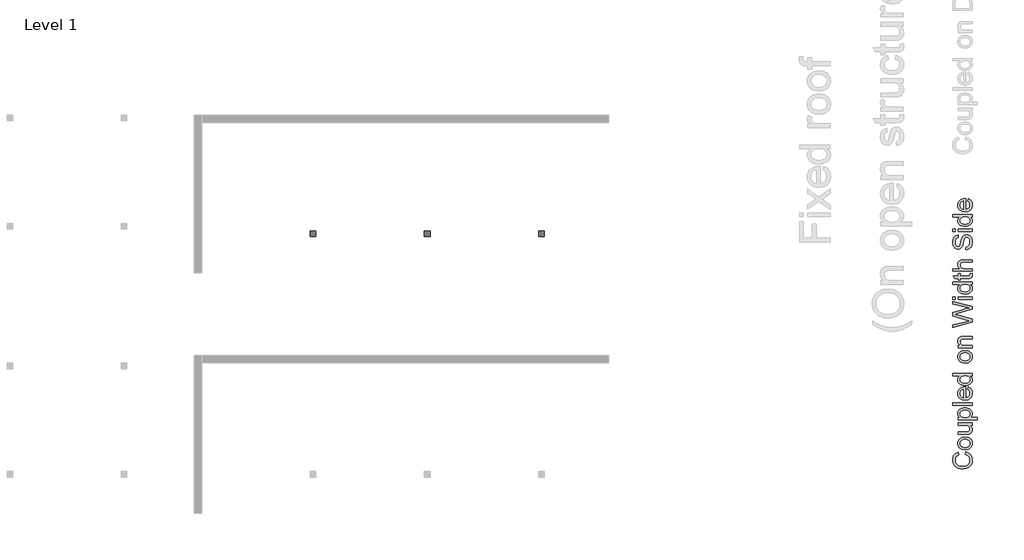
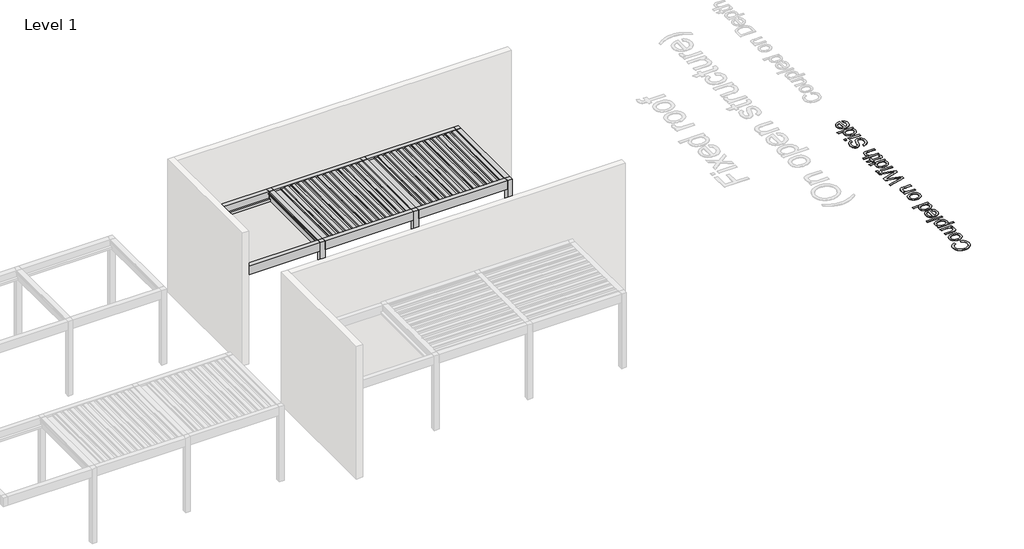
# One storey, part 66 of 80: 2 proxies.
"""IFC4 building model written with IfcOpenShell, lengths in millimetres."""

from ifc_helpers import new_model, si_unit, origin, origin_with_axes, place, context, project, spatial, polyline, outline, extrude, transform, mapped, element, save
from components import generic_models_989edc24

model = new_model("IFC4")

# Units and contexts
model_context = context("Model", 3, world=origin())
ifc_project = project(units=[si_unit("LENGTHUNIT", "METRE", prefix="MILLI")], contexts=[model_context])

# Site, building, storey
site = spatial("IfcSite", under=ifc_project)
building = spatial("IfcBuilding", under=site)
storey = spatial("IfcBuildingStorey", under=building, Name="Level 1", Elevation=0.0)

# Proxies
placement = place(None, origin())
generic_models_shape = generic_models_989edc24(model_context)
element("IfcBuildingElementProxy", 1, Name="Renson_Amani_Patio_Cover : Renson_Amani_Patio_Cover", ObjectType="Renson_Amani_Patio_Cover : Renson_Amani_Patio_Cover", at=placement, inside=storey, context=model_context, shape_type="MappedRepresentation", body=[
    mapped(generic_models_shape, transform((201674.0111744, 51309.4960358, 0.0), x_axis=(1.0, 0.0, 0.0), y_axis=(0.0, 1.0, 0.0), z_axis=(0.0, 0.0, 1.0))),
])
element("IfcBuildingElementProxy", 2, Name="500mm Arial", ObjectType="500mm Arial", at=placement, inside=storey, context=model_context, shape_type="SweptSolid", body=[
    extrude(outline(polyline([(220234.4472638, 44082.6564057), (220250.6340716, 44145.4415995), (220289.6793805, 44133.017918), (220323.7966034, 44116.4708924), (220352.9857405, 44095.8005228), (220377.2467916, 44071.0068092), (220396.3191738, 44042.6492387), (220409.942304, 44011.2872986), (220418.116182, 43976.9209889), (220420.8408081, 43939.5503096), (220418.779136, 43901.2637573), (220412.59412, 43866.7250029), (220402.2857599, 43835.9340464), (220387.8540558, 43808.8908876), (220369.5136055, 43785.2238126), (220347.4790069, 43764.5611072), (220321.7502598, 43746.9027714), (220292.3273644, 43732.2488053), (220260.4825792, 43720.7409966), (220227.4881628, 43712.5211333), (220193.3441151, 43707.5892153), (220158.0504362, 43705.9452426), (220120.1815833, 43707.8038131), (220084.8112623, 43713.3795246), (220051.9394732, 43722.6723771), (220021.566216, 43735.6823706), (219994.1934963, 43752.1182651), (219970.3233197, 43771.6888208), (219949.9556863, 43794.3940377), (219933.0905961, 43820.2339158), (219919.8660048, 43848.3309032), (219910.4198682, 43877.807448), (219904.7521862, 43908.6635504), (219902.8629589, 43940.8992102), (219905.3078413, 43976.8098579), (219912.6424886, 44009.7391286), (219924.8669007, 44039.6870222), (219941.9810777, 44066.6535389), (219963.5328312, 44090.1941545), (219989.0699731, 44109.8643449), (220018.5925032, 44125.6641102), (220052.1004216, 44137.5934503), (220067.060956, 44074.8082565), (220042.3707092, 44064.9214278), (220021.2749761, 44053.0419051), (220003.7737566, 44039.1696882), (219989.8670507, 44023.3047771), (219979.2712828, 44005.3552014), (219971.7028772, 43985.2289906), (219967.1618338, 43962.9261447), (219965.6481527, 43938.4466636), (219967.3266143, 43910.2806983), (219972.3619991, 43884.5212944), (219980.7543071, 43861.168452), (219992.5035383, 43840.2221709), (220007.0808624, 43821.9468663), (220023.9574489, 43806.6069536), (220043.1332979, 43794.2024325), (220064.6084094, 43784.7333033), (220110.563002, 43772.7311532), (220157.9278088, 43768.7304365), (220215.9305368, 43773.4669172), (220266.0851154, 43787.6763592), (220287.7403358, 43798.4675644), (220306.4754928, 43811.8952572), (220322.2905865, 43827.9594377), (220335.1856169, 43846.6601058), (220352.3381149, 43888.3380701), (220358.0556142, 43933.2963156), (220356.1089053, 43960.5923933), (220350.2687787, 43985.7041715), (220340.5352342, 44008.6316505), (220326.908272, 44029.3748301), (220309.4492056, 44047.443201), (220288.2193488, 44062.3462539), (220263.2187015, 44074.0839888), (220234.4472638, 44082.6564057)])), origin_with_axes(), (0.0, 0.0, 1.0), 5.0),
    extrude(outline(polyline([(220228.5611519, 44208.2267934), (220180.790142, 44211.6220376), (220139.6256796, 44221.8077704), (220105.0677647, 44238.7839916), (220077.1163972, 44262.5507013), (220059.2511278, 44286.4783594), (220046.4902211, 44312.889221), (220038.8336771, 44341.783286), (220036.2814958, 44373.1605545), (220039.3893322, 44407.7989437), (220048.7128415, 44439.1187306), (220064.2520237, 44467.1199154), (220086.0068788, 44491.802498), (220113.2416427, 44511.9478693), (220145.2205516, 44526.3374203), (220181.9436053, 44534.9711509), (220223.410804, 44537.8490611), (220286.8397913, 44532.7600268), (220312.8751067, 44526.398734), (220335.1243032, 44517.492924), (220354.3423053, 44506.1537279), (220371.2840376, 44492.4922767), (220385.9495001, 44476.5085705), (220398.3386927, 44458.2026091), (220415.2152792, 44417.4750065), (220420.8408081, 44373.1605545), (220417.7444679, 44338.0163277), (220408.4554476, 44306.4053008), (220392.9737469, 44278.327474), (220371.299366, 44253.7828471), (220343.8001869, 44233.8520736), (220310.8440915, 44219.6158068), (220272.4310798, 44211.0740467), (220228.5611519, 44208.2267934)]), holes=[polyline([(220228.4385246, 44271.0119872), (220258.892256, 44272.8284046), (220285.2609644, 44278.2776566), (220307.5446499, 44287.3597434), (220325.7433123, 44300.0746648), (220339.8799444, 44315.541037), (220349.9775387, 44332.8774761), (220356.0360954, 44352.0839819), (220358.0556142, 44373.1605545), (220356.024599, 44394.1298283), (220349.9315535, 44413.259692), (220339.7764776, 44430.5501458), (220325.5593713, 44446.0011896), (220307.1806, 44458.716111), (220284.5405289, 44467.7981978), (220257.639158, 44473.2474499), (220226.4764873, 44475.0638672), (220196.9884461, 44473.2359535), (220171.3095164, 44467.7522126), (220149.4396982, 44458.6126442), (220131.3789915, 44445.8172486), (220117.2423594, 44430.3087232), (220107.1447651, 44413.0297658), (220101.0862085, 44393.9803762), (220099.0666896, 44373.1605545), (220101.0785443, 44352.0839819), (220107.1141083, 44332.8774761), (220117.1733816, 44315.541037), (220131.2563642, 44300.0746648), (220149.4013772, 44287.3597434), (220171.6467416, 44278.2776566), (220197.9924574, 44272.8284046), (220228.4385246, 44271.0119872)])]), origin_with_axes(), (0.0, 0.0, 1.0), 5.0),
    extrude(outline(polyline([(220412.9926588, 44843.926881), (220349.5943283, 44843.926881), (220380.7646632, 44821.2101678), (220403.0291881, 44794.753321), (220416.3879031, 44764.5563406), (220420.8408081, 44730.6192265), (220417.7138111, 44700.0390357), (220408.3328202, 44671.5741663), (220394.2306771, 44647.6924934), (220376.9402233, 44630.8618922), (220355.9402927, 44619.5341924), (220330.7097192, 44612.1612241), (220272.3391093, 44608.4824041), (220044.129645, 44608.4824041), (220044.129645, 44671.267598), (220242.7859224, 44671.267598), (220306.7973896, 44675.0690453), (220328.1498737, 44684.2201099), (220344.3826667, 44699.9010799), (220354.6373773, 44721.0696231), (220358.0556142, 44746.683407), (220354.5607353, 44773.7687189), (220344.0760984, 44799.1065913), (220327.5673939, 44819.9992229), (220306.0003119, 44833.7488125), (220276.4624534, 44841.3823639), (220236.0414192, 44843.926881), (220044.129645, 44843.926881), (220044.129645, 44906.7120749), (220412.9926588, 44906.7120749), (220412.9926588, 44843.926881)])), origin_with_axes(), (0.0, 0.0, 1.0), 5.0),
    extrude(outline(polyline([(220554.259345, 44993.0417164), (220044.129645, 44993.0417164), (220044.129645, 45055.8269103), (220105.6885655, 45055.8269103), (220075.3229725, 45076.3056747), (220053.6332632, 45099.2369857), (220040.6194376, 45125.969744), (220036.2814958, 45157.8528503), (220037.799009, 45179.7494932), (220042.3515487, 45200.3125639), (220049.9391148, 45219.5420623), (220060.5617075, 45237.4379885), (220073.943415, 45253.6094679), (220089.8083261, 45267.6656258), (220128.9877586, 45289.4319772), (220175.2489195, 45302.5837585), (220225.7407233, 45306.9676856), (220279.4361662, 45302.0166071), (220327.460095, 45287.1633716), (220348.735937, 45276.1422401), (220367.3752914, 45262.8831599), (220383.3781582, 45247.3861308), (220396.7445374, 45229.651153), (220414.8167404, 45190.9469014), (220420.8408081, 45150.2499557), (220416.8094345, 45121.3865475), (220404.7153139, 45095.6194794), (220386.4591699, 45073.5618881), (220363.9417261, 45055.8269103), (220554.259345, 45055.8269103), (220554.259345, 44993.0417164)]), holes=[polyline([(220231.5042079, 45055.8269103), (220261.762502, 45057.5245324), (220287.7901531, 45062.6173988), (220309.5871614, 45071.1055094), (220327.1535266, 45082.9888642), (220340.6731899, 45097.2941089), (220350.3300923, 45113.0478889), (220356.1242337, 45130.2502043), (220358.0556142, 45148.901055), (220356.0552559, 45167.8201531), (220350.0541808, 45185.336701), (220340.0523891, 45201.4506988), (220326.0498806, 45216.1621465), (220307.8473861, 45228.4210476), (220285.245636, 45237.1774055), (220258.2446304, 45242.4312202), (220226.8443693, 45244.1824918), (220196.8466583, 45242.4733734), (220170.8649923, 45237.346018), (220148.8993715, 45228.8004259), (220130.9497959, 45216.8365968), (220117.0009369, 45202.4968632), (220107.0374662, 45186.8235574), (220101.0593838, 45169.8166793), (220099.0666896, 45151.476229), (220101.1858432, 45133.1932603), (220107.5433039, 45115.9909449), (220118.1390718, 45099.8692829), (220132.9731468, 45084.8282742), (220151.8462596, 45072.1401775), (220174.5591407, 45063.0772512), (220201.1117901, 45057.6394955), (220231.5042079, 45055.8269103)])]), origin_with_axes(), (0.0, 0.0, 1.0), 5.0),
    extrude(outline(polyline([(220412.9926588, 45377.6010287), (219910.7111081, 45377.6010287), (219910.7111081, 45440.3862226), (220412.9926588, 45440.3862226), (220412.9926588, 45377.6010287)])), origin_with_axes(), (0.0, 0.0, 1.0), 5.0),
    extrude(outline(polyline([(220303.1185696, 45792.8171739), (220310.9667188, 45854.3760945), (220335.6224767, 45844.937622), (220357.3505071, 45832.1958758), (220376.1508099, 45816.1508559), (220392.0233851, 45796.8025622), (220404.6310077, 45774.3502642), (220413.6364523, 45748.9932313), (220419.0397191, 45720.7314634), (220420.8408081, 45689.5649606), (220417.7329716, 45650.6077902), (220408.4094623, 45615.8965911), (220392.8702801, 45585.4313634), (220371.115425, 45559.212107), (220343.7503696, 45538.1278701), (220311.3805861, 45523.067701), (220274.0060746, 45514.0315995), (220231.6268352, 45511.0195656), (220187.8105567, 45514.0622563), (220149.1906115, 45523.1903283), (220115.7669994, 45538.4037816), (220087.5397204, 45559.7026163), (220065.1142471, 45585.8528948), (220049.0960519, 45615.6206796), (220039.4851348, 45649.0059706), (220036.2814958, 45686.008768), (220039.4774706, 45721.819781), (220049.0653951, 45754.2048929), (220065.0452693, 45783.1641037), (220087.4170931, 45808.6974134), (220115.5830584, 45829.5402277), (220148.9453568, 45844.4279522), (220187.5039884, 45853.3605869), (220231.2589532, 45856.3381318), (220248.181525, 45855.9702498), (220248.181525, 45573.8047595), (220273.2358217, 45577.4414263), (220295.1784499, 45584.6726067), (220314.0094095, 45595.4983009), (220329.7287006, 45609.9185087), (220342.1217253, 45627.1361525), (220350.9738858, 45646.3541546), (220356.2851821, 45667.5725151), (220358.0556142, 45690.7912339), (220354.7753331, 45724.2071818), (220344.9344897, 45752.3501545), (220327.9199474, 45775.2201518), (220303.1185696, 45792.8171739)]), holes=[polyline([(220185.3963312, 45573.8047595), (220185.3963312, 45793.5529379), (220152.2256379, 45785.0609952), (220128.4972492, 45768.4143349), (220115.6213794, 45751.2924937), (220106.4243295, 45731.8100764), (220100.9060996, 45709.9670829), (220099.0666896, 45685.7635133), (220104.9374731, 45643.4417555), (220112.2759525, 45625.0284952), (220122.5498236, 45608.4469807), (220135.2839056, 45594.5326106), (220150.0030175, 45584.1207838), (220166.7071594, 45577.2115), (220185.3963312, 45573.8047595)])]), origin_with_axes(), (0.0, 0.0, 1.0), 5.0),
    extrude(outline(polyline([(220412.9926588, 46146.7196533), (220353.7636576, 46146.7196533), (220383.1099109, 46127.9346789), (220404.0715205, 46105.1796447), (220416.6484862, 46078.4545506), (220420.8408081, 46047.7593966), (220414.7707551, 46007.1697498), (220396.5605964, 45970.0136683), (220367.4825903, 45938.5597577), (220328.8089956, 45915.0766237), (220282.1033106, 45900.4533144), (220228.9290339, 45895.5788779), (220176.4138791, 45900.0701039), (220128.9877586, 45913.543782), (220107.8575365, 45923.6452085), (220089.3484736, 45935.9845837), (220073.4605699, 45950.5619078), (220060.1938255, 45967.3771806), (220042.2595782, 46005.3456682), (220036.2814958, 46047.5141419), (220040.558124, 46078.2322885), (220053.3880085, 46105.3942425), (220073.0543669, 46128.417524), (220097.8404163, 46146.7196533), (219910.7111081, 46146.7196533), (219910.7111081, 46209.5048471), (220412.9926588, 46209.5048471), (220412.9926588, 46146.7196533)]), holes=[polyline([(220228.6837793, 45958.3640718), (220259.1298465, 45960.1345039), (220285.4755623, 45965.4458002), (220307.7209267, 45974.2979607), (220325.8659396, 45986.6909854), (220339.9489223, 46001.4905715), (220350.0081956, 46017.5624162), (220356.0437596, 46034.9065194), (220358.0556142, 46053.5228812), (220356.1357301, 46072.2273814), (220350.3760776, 46089.4680178), (220340.7766568, 46105.2447904), (220327.3374676, 46119.5576993), (220309.9512112, 46131.4410542), (220288.5105887, 46139.9291648), (220263.0156, 46145.0220312), (220233.4662452, 46146.7196533), (220201.069637, 46144.9913743), (220173.2868821, 46139.8065375), (220150.1179807, 46131.1651427), (220131.5629325, 46119.06719), (220117.3458263, 46104.4400486), (220107.1907503, 46088.2110876), (220101.0977048, 46070.3803072), (220099.0666896, 46050.9477072), (220101.0172306, 46031.9634634), (220106.8688536, 46014.6193602), (220116.6215586, 45998.9153975), (220130.2753455, 45984.8515754), (220148.1291186, 45973.2632926), (220170.4817819, 45964.9859477), (220197.3333355, 45960.0195407), (220228.6837793, 45958.3640718)])]), origin_with_axes(), (0.0, 0.0, 1.0), 5.0),
    extrude(outline(polyline([(220228.5611519, 46484.1900702), (220180.790142, 46487.5853144), (220139.6256796, 46497.7710472), (220105.0677647, 46514.7472684), (220077.1163972, 46538.5139782), (220059.2511278, 46562.4416363), (220046.4902211, 46588.8524978), (220038.8336771, 46617.7465629), (220036.2814958, 46649.1238314), (220039.3893322, 46683.7622205), (220048.7128415, 46715.0820074), (220064.2520237, 46743.0831922), (220086.0068788, 46767.7657748), (220113.2416427, 46787.9111462), (220145.2205516, 46802.3006971), (220181.9436053, 46810.9344277), (220223.410804, 46813.8123379), (220286.8397913, 46808.7233036), (220312.8751067, 46802.3620108), (220335.1243032, 46793.4562008), (220354.3423053, 46782.1170047), (220371.2840376, 46768.4555536), (220385.9495001, 46752.4718473), (220398.3386927, 46734.1658859), (220415.2152792, 46693.4382834), (220420.8408081, 46649.1238314), (220417.7444679, 46613.9796045), (220408.4554476, 46582.3685777), (220392.9737469, 46554.2907508), (220371.299366, 46529.7461239), (220343.8001869, 46509.8153504), (220310.8440915, 46495.5790836), (220272.4310798, 46487.0373236), (220228.5611519, 46484.1900702)]), holes=[polyline([(220228.4385246, 46546.975264), (220258.892256, 46548.7916814), (220285.2609644, 46554.2409334), (220307.5446499, 46563.3230202), (220325.7433123, 46576.0379417), (220339.8799444, 46591.5043139), (220349.9775387, 46608.8407529), (220356.0360954, 46628.0472587), (220358.0556142, 46649.1238314), (220356.024599, 46670.0931051), (220349.9315535, 46689.2229688), (220339.7764776, 46706.5134226), (220325.5593713, 46721.9644664), (220307.1806, 46734.6793879), (220284.5405289, 46743.7614746), (220257.639158, 46749.2107267), (220226.4764873, 46751.027144), (220196.9884461, 46749.1992304), (220171.3095164, 46743.7154894), (220149.4396982, 46734.5759211), (220131.3789915, 46721.7805254), (220117.2423594, 46706.2720001), (220107.1447651, 46688.9930426), (220101.0862085, 46669.943653), (220099.0666896, 46649.1238314), (220101.0785443, 46628.0472587), (220107.1141083, 46608.8407529), (220117.1733816, 46591.5043139), (220131.2563642, 46576.0379417), (220149.4013772, 46563.3230202), (220171.6467416, 46554.2409334), (220197.9924574, 46548.7916814), (220228.4385246, 46546.975264)])]), origin_with_axes(), (0.0, 0.0, 1.0), 5.0),
    extrude(outline(polyline([(220412.9926588, 46884.445681), (220044.129645, 46884.445681), (220044.129645, 46947.2308748), (220095.6331243, 46947.2308748), (220069.6667868, 46969.0432114), (220051.1194029, 46995.2394752), (220039.9909726, 47025.819666), (220036.2814958, 47060.783784), (220039.270537, 47091.7318568), (220048.2376606, 47120.0740989), (220062.0638923, 47143.7105171), (220079.6302575, 47160.5411183), (220100.8907712, 47171.9607886), (220125.7994479, 47179.3644138), (220186.4999771, 47182.6753517), (220412.9926588, 47182.6753517), (220412.9926588, 47119.8901579), (220194.961263, 47119.8901579), (220162.495677, 47118.0814047), (220139.4110818, 47112.6551453), (220122.8717204, 47102.6456893), (220110.0418358, 47087.0873466), (220101.8104762, 47067.1450768), (220099.0666896, 47043.9838395), (220100.6071955, 47024.9191215), (220105.228713, 47007.2109684), (220112.9312423, 46990.8593802), (220123.7147833, 46975.8643568), (220138.8056093, 46963.3372084), (220159.4299937, 46954.3892453), (220185.5879364, 46949.0204674), (220217.2794374, 46947.2308748), (220412.9926588, 46947.2308748), (220412.9926588, 46884.445681)])), origin_with_axes(), (0.0, 0.0, 1.0), 5.0),
    extrude(outline(polyline([(220412.9926588, 47562.9427074), (219910.7111081, 47425.9679779), (219910.7111081, 47490.715209), (220240.8238851, 47570.17772), (220342.7271978, 47594.7031863), (220252.5961089, 47620.9454353), (219910.7111081, 47720.5188287), (219910.7111081, 47813.8382281), (220158.5409455, 47886.1883538), (220250.5114443, 47917.1824119), (220342.7271978, 47940.0217524), (220243.7669411, 47963.8114548), (219910.7111081, 48044.0097297), (219910.7111081, 48108.7569609), (220412.9926588, 47971.659604), (220412.9926588, 47904.5824536), (220025.4902906, 47784.1624138), (219971.4116373, 47767.3624694), (220036.5267504, 47748.4778603), (220412.9926588, 47638.7263984), (220412.9926588, 47562.9427074)])), origin_with_axes(), (0.0, 0.0, 1.0), 5.0),
    extrude(outline(polyline([(220412.9926588, 48163.6940055), (220044.129645, 48163.6940055), (220044.129645, 48226.4791994), (220412.9926588, 48226.4791994), (220412.9926588, 48163.6940055)])), origin_with_axes(), (0.0, 0.0, 1.0), 5.0),
    extrude(outline(polyline([(219973.4963019, 48163.6940055), (219910.7111081, 48163.6940055), (219910.7111081, 48226.4791994), (219973.4963019, 48226.4791994), (219973.4963019, 48163.6940055)])), origin_with_axes(), (0.0, 0.0, 1.0), 5.0),
    extrude(outline(polyline([(220412.9926588, 48548.2533178), (220353.7636576, 48548.2533178), (220383.1099109, 48529.4683434), (220404.0715205, 48506.7133092), (220416.6484862, 48479.9882151), (220420.8408081, 48449.2930611), (220414.7707551, 48408.7034143), (220396.5605964, 48371.5473328), (220367.4825903, 48340.0934222), (220328.8089956, 48316.6102882), (220282.1033106, 48301.9869789), (220228.9290339, 48297.1125424), (220176.4138791, 48301.6037685), (220128.9877586, 48315.0774465), (220107.8575365, 48325.178873), (220089.3484736, 48337.5182482), (220073.4605699, 48352.0955723), (220060.1938255, 48368.9108452), (220042.2595782, 48406.8793327), (220036.2814958, 48449.0478064), (220040.558124, 48479.765953), (220053.3880085, 48506.927907), (220073.0543669, 48529.9511885), (220097.8404163, 48548.2533178), (219910.7111081, 48548.2533178), (219910.7111081, 48611.0385116), (220412.9926588, 48611.0385116), (220412.9926588, 48548.2533178)]), holes=[polyline([(220228.6837793, 48359.8977363), (220259.1298465, 48361.6681684), (220285.4755623, 48366.9794647), (220307.7209267, 48375.8316252), (220325.8659396, 48388.2246499), (220339.9489223, 48403.024236), (220350.0081956, 48419.0960807), (220356.0437596, 48436.4401839), (220358.0556142, 48455.0565457), (220356.1357301, 48473.7610459), (220350.3760776, 48491.0016823), (220340.7766568, 48506.778455), (220327.3374676, 48521.0913638), (220309.9512112, 48532.9747187), (220288.5105887, 48541.4628293), (220263.0156, 48546.5556957), (220233.4662452, 48548.2533178), (220201.069637, 48546.5250388), (220173.2868821, 48541.340202), (220150.1179807, 48532.6988072), (220131.5629325, 48520.6008545), (220117.3458263, 48505.9737131), (220107.1907503, 48489.7447522), (220101.0977048, 48471.9139717), (220099.0666896, 48452.4813717), (220101.0172306, 48433.4971279), (220106.8688536, 48416.1530247), (220116.6215586, 48400.449062), (220130.2753455, 48386.3852399), (220148.1291186, 48374.7969571), (220170.4817819, 48366.5196122), (220197.3333355, 48361.5532053), (220228.6837793, 48359.8977363)])]), origin_with_axes(), (0.0, 0.0, 1.0), 5.0),
    extrude(outline(polyline([(220360.6307882, 48838.6348393), (220414.8320688, 48846.4829886), (220420.8408081, 48799.5167205), (220418.2349773, 48769.3810537), (220410.4174849, 48746.9095952), (220398.3693495, 48731.0293557), (220383.0715899, 48720.6673462), (220356.7986841, 48714.9651753), (220311.8251102, 48713.0644516), (220106.9148388, 48713.0644516), (220106.9148388, 48665.9755563), (220044.129645, 48665.9755563), (220044.129645, 48713.0644516), (219954.4890655, 48713.0644516), (219917.5782387, 48775.8496455), (220044.129645, 48775.8496455), (220044.129645, 48838.6348393), (220106.9148388, 48838.6348393), (220106.9148388, 48775.8496455), (220309.9857002, 48775.8496455), (220342.3593158, 48779.1605834), (220353.8249713, 48789.890475), (220358.0556142, 48811.2889444), (220360.6307882, 48838.6348393)])), origin_with_axes(), (0.0, 0.0, 1.0), 5.0),
    extrude(outline(polyline([(220412.9926588, 48901.4200332), (219910.7111081, 48901.4200332), (219910.7111081, 48964.205227), (220095.3878697, 48964.205227), (220069.5288311, 48987.2668296), (220051.0580892, 49013.1641892), (220039.9756441, 49041.8973059), (220036.2814958, 49073.4661796), (220040.3128693, 49111.3886819), (220052.4069899, 49143.9768953), (220071.6134957, 49169.6366645), (220096.982025, 49186.7738341), (220131.838844, 49196.4307365), (220179.5102192, 49199.6497039), (220412.9926588, 49199.6497039), (220412.9926588, 49136.8645101), (220186.0094678, 49136.8645101), (220146.707408, 49131.8674463), (220131.7008883, 49125.6211166), (220119.7907087, 49116.876255), (220110.7239503, 49105.8397952), (220104.2476944, 49092.7186707), (220099.0666896, 49060.2224278), (220102.5615686, 49033.6889389), (220113.0462054, 49008.7802621), (220129.5089247, 48988.1482135), (220150.9380509, 48974.4446092), (220179.4182487, 48966.7650726), (220217.0341827, 48964.205227), (220412.9926588, 48964.205227), (220412.9926588, 48901.4200332)])), origin_with_axes(), (0.0, 0.0, 1.0), 5.0),
    extrude(outline(polyline([(220240.3333758, 49466.4867778), (220240.3333758, 49529.2719716), (220275.1748664, 49536.4763273), (220303.1798833, 49549.5054813), (220325.4060871, 49569.8309616), (220342.9111388, 49598.924296), (220354.2694954, 49634.4862222), (220358.0556142, 49674.2174777), (220355.1892003, 49709.1969241), (220346.5899587, 49739.8231002), (220332.9783249, 49764.6398064), (220315.0747345, 49782.1908433), (220294.519328, 49792.6294949), (220272.952246, 49796.1090454), (220251.936987, 49793.5032146), (220233.7728135, 49785.6857222), (220218.2757845, 49769.8054828), (220205.2619589, 49743.0114108), (220181.2883155, 49651.592735), (220165.4234045, 49591.5819845), (220150.3249143, 49553.1843013), (220129.2023564, 49521.9296601), (220103.6039009, 49499.7800983), (220074.0813708, 49486.5823318), (220041.186589, 49482.1830762), (220004.4137179, 49487.6246641), (219970.1240503, 49503.9494276), (219954.5963644, 49516.0857013), (219941.0613727, 49530.7281712), (219919.9694716, 49567.5316991), (219907.139587, 49611.7081954), (219902.8629589, 49660.6058439), (219907.3388565, 49713.5808512), (219920.7665493, 49759.9339826), (219942.8701258, 49798.0097691), (219957.0719037, 49813.3228571), (219973.3736746, 49826.1527417), (220010.3764719, 49843.9643617), (220051.9777942, 49851.0460901), (220051.9777942, 49788.2608962), (220031.9435539, 49784.0609101), (220014.5151444, 49776.733927), (219999.6925657, 49766.279947), (219987.4758177, 49752.69897), (219977.9262143, 49735.7380772), (219971.105069, 49715.1443497), (219965.6481527, 49663.0583905), (219971.0437553, 49609.7461581), (219977.7882585, 49589.3670284), (219987.2305631, 49573.1725564), (219998.5812555, 49560.8331811), (220011.0509223, 49552.0193416), (220024.6395635, 49546.731038), (220039.3471791, 49544.9682701), (220063.4741066, 49549.9653338), (220082.8798818, 49564.9565251), (220091.5097803, 49578.7214431), (220100.2316493, 49600.395824), (220117.9512987, 49667.4729745), (220134.7819, 49736.6961032), (220149.466523, 49778.573337), (220172.2445498, 49814.3651895), (220200.3568656, 49839.3351799), (220233.496902, 49854.0044744), (220271.3580907, 49858.8942393), (220310.0623423, 49853.2687104), (220346.4673314, 49836.3921239), (220377.7986146, 49808.9542584), (220401.2817487, 49771.6448928), (220415.9510432, 49726.7786178), (220420.8408081, 49676.6700243), (220415.5678328, 49615.1570891), (220408.9766137, 49588.4818123), (220399.748907, 49564.5273295), (220387.8693842, 49543.1480206), (220373.322717, 49524.1982658), (220356.1089053, 49507.6780649), (220336.2279492, 49493.5874181), (220314.323642, 49482.2367257), (220291.0397774, 49473.9363882), (220266.3763553, 49468.6864055), (220240.3333758, 49466.4867778)])), origin_with_axes(), (0.0, 0.0, 1.0), 5.0),
    extrude(outline(polyline([(220412.9926588, 49945.2238808), (220044.129645, 49945.2238808), (220044.129645, 50008.0090747), (220412.9926588, 50008.0090747), (220412.9926588, 49945.2238808)])), origin_with_axes(), (0.0, 0.0, 1.0), 5.0),
    extrude(outline(polyline([(219973.4963019, 49945.2238808), (219910.7111081, 49945.2238808), (219910.7111081, 50008.0090747), (219973.4963019, 50008.0090747), (219973.4963019, 49945.2238808)])), origin_with_axes(), (0.0, 0.0, 1.0), 5.0),
    extrude(outline(polyline([(220412.9926588, 50329.7831931), (220353.7636576, 50329.7831931), (220383.1099109, 50310.9982187), (220404.0715205, 50288.2431845), (220416.6484862, 50261.5180904), (220420.8408081, 50230.8229364), (220414.7707551, 50190.2332896), (220396.5605964, 50153.0772081), (220367.4825903, 50121.6232975), (220328.8089956, 50098.1401635), (220282.1033106, 50083.5168542), (220228.9290339, 50078.6424177), (220176.4138791, 50083.1336438), (220128.9877586, 50096.6073218), (220107.8575365, 50106.7087483), (220089.3484736, 50119.0481235), (220073.4605699, 50133.6254476), (220060.1938255, 50150.4407205), (220042.2595782, 50188.4092081), (220036.2814958, 50230.5776817), (220040.558124, 50261.2958283), (220053.3880085, 50288.4577823), (220073.0543669, 50311.4810639), (220097.8404163, 50329.7831931), (219910.7111081, 50329.7831931), (219910.7111081, 50392.568387), (220412.9926588, 50392.568387), (220412.9926588, 50329.7831931)]), holes=[polyline([(220228.6837793, 50141.4276116), (220259.1298465, 50143.1980437), (220285.4755623, 50148.50934), (220307.7209267, 50157.3615005), (220325.8659396, 50169.7545252), (220339.9489223, 50184.5541113), (220350.0081956, 50200.625956), (220356.0437596, 50217.9700592), (220358.0556142, 50236.586421), (220356.1357301, 50255.2909212), (220350.3760776, 50272.5315576), (220340.7766568, 50288.3083303), (220327.3374676, 50302.6212391), (220309.9512112, 50314.504594), (220288.5105887, 50322.9927046), (220263.0156, 50328.085571), (220233.4662452, 50329.7831931), (220201.069637, 50328.0549142), (220173.2868821, 50322.8700773), (220150.1179807, 50314.2286825), (220131.5629325, 50302.1307298), (220117.3458263, 50287.5035884), (220107.1907503, 50271.2746275), (220101.0977048, 50253.443847), (220099.0666896, 50234.011247), (220101.0172306, 50215.0270032), (220106.8688536, 50197.6829), (220116.6215586, 50181.9789373), (220130.2753455, 50167.9151152), (220148.1291186, 50156.3268324), (220170.4817819, 50148.0494875), (220197.3333355, 50143.0830806), (220228.6837793, 50141.4276116)])]), origin_with_axes(), (0.0, 0.0, 1.0), 5.0),
    extrude(outline(polyline([(220303.1185696, 50744.9993383), (220310.9667188, 50806.5582589), (220335.6224767, 50797.1197864), (220357.3505071, 50784.3780402), (220376.1508099, 50768.3330203), (220392.0233851, 50748.9847266), (220404.6310077, 50726.5324286), (220413.6364523, 50701.1753957), (220419.0397191, 50672.9136278), (220420.8408081, 50641.747125), (220417.7329716, 50602.7899546), (220408.4094623, 50568.0787555), (220392.8702801, 50537.6135278), (220371.115425, 50511.3942714), (220343.7503696, 50490.3100346), (220311.3805861, 50475.2498654), (220274.0060746, 50466.2137639), (220231.6268352, 50463.20173), (220187.8105567, 50466.2444207), (220149.1906115, 50475.3724927), (220115.7669994, 50490.585946), (220087.5397204, 50511.8847807), (220065.1142471, 50538.0350592), (220049.0960519, 50567.802844), (220039.4851348, 50601.1881351), (220036.2814958, 50638.1909324), (220039.4774706, 50674.0019454), (220049.0653951, 50706.3870573), (220065.0452693, 50735.3462681), (220087.4170931, 50760.8795778), (220115.5830584, 50781.7223921), (220148.9453568, 50796.6101166), (220187.5039884, 50805.5427513), (220231.2589532, 50808.5202962), (220248.181525, 50808.1524142), (220248.181525, 50525.9869239), (220273.2358217, 50529.6235907), (220295.1784499, 50536.8547711), (220314.0094095, 50547.6804653), (220329.7287006, 50562.1006731), (220342.1217253, 50579.3183169), (220350.9738858, 50598.536319), (220356.2851821, 50619.7546795), (220358.0556142, 50642.9733983), (220354.7753331, 50676.3893462), (220344.9344897, 50704.5323189), (220327.9199474, 50727.4023162), (220303.1185696, 50744.9993383)]), holes=[polyline([(220185.3963312, 50525.9869239), (220185.3963312, 50745.7351023), (220152.2256379, 50737.2431596), (220128.4972492, 50720.5964993), (220115.6213794, 50703.4746581), (220106.4243295, 50683.9922408), (220100.9060996, 50662.1492473), (220099.0666896, 50637.9456777), (220104.9374731, 50595.6239199), (220112.2759525, 50577.2106596), (220122.5498236, 50560.6291451), (220135.2839056, 50546.714775), (220150.0030175, 50536.3029482), (220166.7071594, 50529.3936644), (220185.3963312, 50525.9869239)])]), origin_with_axes(), (0.0, 0.0, 1.0), 5.0),
])

save(model, "model.ifc")
